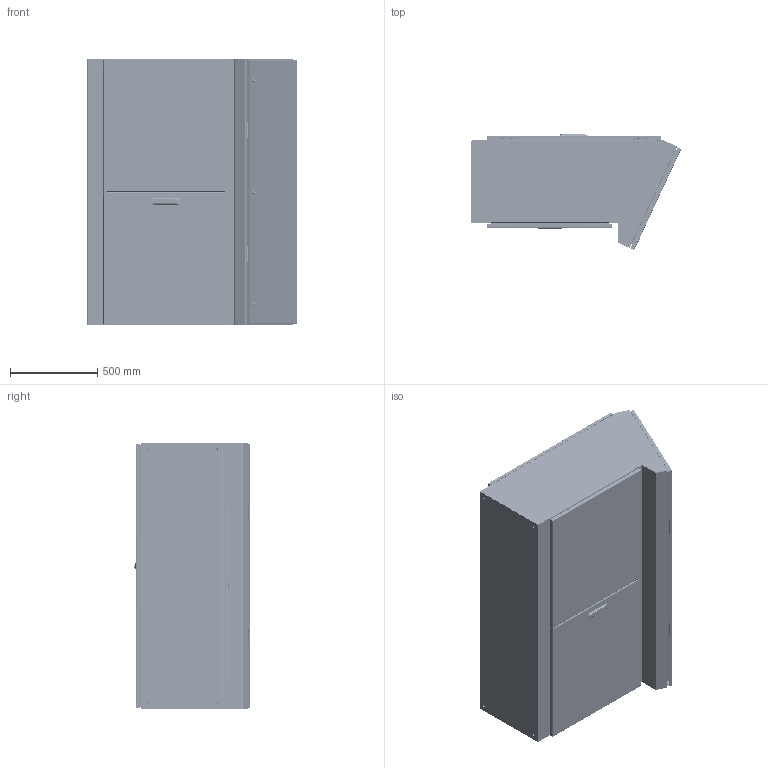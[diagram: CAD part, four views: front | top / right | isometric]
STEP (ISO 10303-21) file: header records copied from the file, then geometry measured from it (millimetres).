
FILE_DESCRIPTION((''),'2;1');
FILE_NAME('MODEL-186_ASM','2017-05-23T',('JoelB'),('SAGINAW CONTROL & ENGINEERING'),'PRO/ENGINEER BY PARAMETRIC TECHNOLOGY CORPORATION, 2012070','PRO/ENGINEER BY PARAMETRIC TECHNOLOGY CORPORATION, 2012070','');
FILE_SCHEMA(('AUTOMOTIVE_DESIGN { 1 0 10303 214 1 1 1 1 }'));
Length unit declared in the file: inch
Products named in the file (111): MODEL-186-FRNT; MODEL-186-R-SD; MODEL-186-L-SD; MODEL-186-BTM; MODEL-186-BCK; 101389; 101226; 101670; 102140; 102483; 101687; 103292_AF0_ASM; 103292_AF1_ASM; 103292_AF2_ASM; 103292_AF3_ASM; 103292_AF4_ASM; 103292_AF5_ASM; 103292_AF6_ASM; MODEL-186-F-MSTR; MODEL-186-F-SLV; MODEL-186-PR-GSKT-FM; MODEL-186-PR-GSKT-FS; 100837; 111267; 100882; 103306_ASM; 100796_BASE; 100796_WASHER; 100796_SHAFT; 100796_PIN; 100796_HANDLE; 100796_CAP; 100796_PLATE; 100796_SCREW; 100796_CAP2; 100796_LOCK; 100796_ASM; 102232; 100056; 102232_ASM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
Assembly tree (283 placements, depth 4):
  MODEL-186_ASM
    MODEL-186-FRNT
    MODEL-186-R-SD
    MODEL-186-L-SD
    MODEL-186-BTM
    MODEL-186-BCK
    103292_AF0_ASM
      101389
      101226
      101670
      102140
      102483  x2
      101687
    101687  x11
    103292_AF1_ASM
      101389
      101226
      101670
      102140
      102483  x2
      101687
    103292_AF2_ASM
      101389
      101226
      101670
      102140
      102483  x2
      101687
    103292_AF3_ASM
      101389
      101226
      101670
      102140
      102483  x2
      101687
    103292_AF4_ASM
      101389
      101226
      101670
      102140
      102483  x2
      101687
    103292_AF5_ASM
      101389
      101226
      101670
      102140
      102483  x2
      101687
    103292_AF6_ASM
      101389
      101226
      101670
      102140
      102483  x2
      101687
    MODEL-186-F-MSTR
    MODEL-186-F-SLV
    MODEL-186-PR-GSKT-FM
    MODEL-186-PR-GSKT-FS
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Bounding box: 1198.05 x 658.81 x 1520.83 mm (x, y, z)
Volume: 20847493 mm3; surface area: 18587693.1 mm2
Topology: 254 solids, 295 shells, 17280 faces, 42653 edges, 26150 vertices
Faces by surface type: plane 8010, cylinder 5412, bspline 1273, torus 1167, cone 1011, sphere 403, extrusion 4
Entity records: 301820 total; most frequent: CARTESIAN_POINT 104610, DIRECTION 29892, ORIENTED_EDGE 29216, PRESENTATION_STYLE_ASSIGNMENT 15070, STYLED_ITEM 14614, EDGE_CURVE 14614, CURVE_STYLE 14482, AXIS2_PLACEMENT_3D 10924
